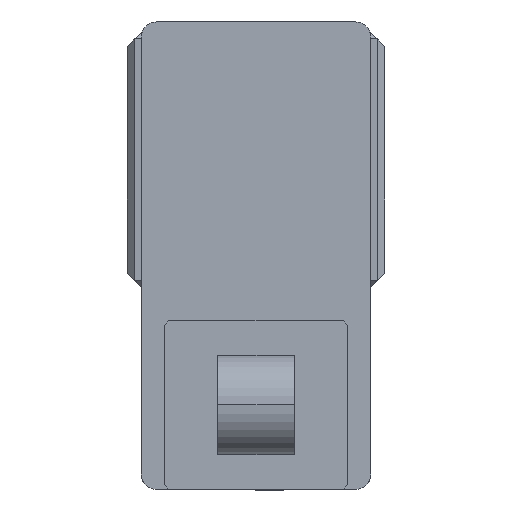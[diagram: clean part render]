
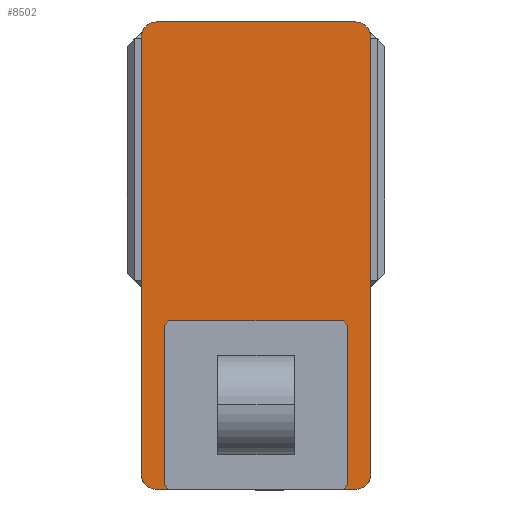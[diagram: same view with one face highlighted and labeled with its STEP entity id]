
A CAD part, left-side view. The second image highlights one B-rep face of the part: STEP entity #8502.
In plain terms, the highlighted planar face has unit normal (-1, 0, 0) as drawn and (0, 0, 1) by its records, which use the part's own axes.
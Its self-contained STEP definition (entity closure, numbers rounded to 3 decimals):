
#11 = VERTEX_POINT ( 'NONE', #13044 ) ;
#139 = DIRECTION ( 'NONE',  ( 1., 0., 0. ) ) ;
#318 = ORIENTED_EDGE ( 'NONE', *, *, #15187, .T. ) ;
#721 = CARTESIAN_POINT ( 'NONE',  ( -75., 152.5, 105. ) ) ;
#1483 = CARTESIAN_POINT ( 'NONE',  ( 75., 142.5, 105. ) ) ;
#2527 = VECTOR ( 'NONE', #17218, 1000. ) ;
#2531 = CARTESIAN_POINT ( 'NONE',  ( -75., 142.5, 105. ) ) ;
#2633 = AXIS2_PLACEMENT_3D ( 'NONE', #4036, #16535, #5829 ) ;
#2819 = VERTEX_POINT ( 'NONE', #10984 ) ;
#3111 = CARTESIAN_POINT ( 'NONE',  ( 65., -142.5, 105. ) ) ;
#3176 = DIRECTION ( 'NONE',  ( -1., 0., 0. ) ) ;
#3801 = FACE_OUTER_BOUND ( 'NONE', #14479, .T. ) ;
#4036 = CARTESIAN_POINT ( 'NONE',  ( 65., 142.5, 105. ) ) ;
#4430 = VECTOR ( 'NONE', #3176, 1000. ) ;
#4447 = ORIENTED_EDGE ( 'NONE', *, *, #13225, .T. ) ;
#4892 = DIRECTION ( 'NONE',  ( 1., 0., 0. ) ) ;
#4972 = ORIENTED_EDGE ( 'NONE', *, *, #20473, .T. ) ;
#5550 = LINE ( 'NONE', #11212, #19292 ) ;
#5684 = EDGE_CURVE ( 'NONE', #10021, #17903, #6973, .T. ) ;
#5808 = EDGE_CURVE ( 'NONE', #11, #16987, #16474, .T. ) ;
#5829 = DIRECTION ( 'NONE',  ( 1., 0., 0. ) ) ;
#5935 = CARTESIAN_POINT ( 'NONE',  ( -65., -152.5, 105. ) ) ;
#6107 = VECTOR ( 'NONE', #11426, 1000. ) ;
#6492 = VERTEX_POINT ( 'NONE', #5935 ) ;
#6839 = DIRECTION ( 'NONE',  ( 0., 0., 1. ) ) ;
#6973 = CIRCLE ( 'NONE', #8215, 10. ) ;
#7147 = EDGE_CURVE ( 'NONE', #16082, #8458, #17821, .T. ) ;
#7337 = CARTESIAN_POINT ( 'NONE',  ( 65., -152.5, 105. ) ) ;
#8215 = AXIS2_PLACEMENT_3D ( 'NONE', #3111, #15606, #4892 ) ;
#8295 = ORIENTED_EDGE ( 'NONE', *, *, #16936, .T. ) ;
#8458 = VERTEX_POINT ( 'NONE', #17836 ) ;
#8502 = ADVANCED_FACE ( 'NONE', ( #3801 ), #16110, .T. ) ;
#8576 = ORIENTED_EDGE ( 'NONE', *, *, #5684, .T. ) ;
#8799 = CARTESIAN_POINT ( 'NONE',  ( -75., 152.5, 105. ) ) ;
#9431 = CARTESIAN_POINT ( 'NONE',  ( -65., -142.5, 105. ) ) ;
#9919 = CIRCLE ( 'NONE', #13221, 10. ) ;
#10021 = VERTEX_POINT ( 'NONE', #7337 ) ;
#10311 = LINE ( 'NONE', #721, #6107 ) ;
#10666 = ORIENTED_EDGE ( 'NONE', *, *, #5808, .T. ) ;
#10873 = DIRECTION ( 'NONE',  ( 0., 0., 1. ) ) ;
#10984 = CARTESIAN_POINT ( 'NONE',  ( -75., -142.5, 105. ) ) ;
#11212 = CARTESIAN_POINT ( 'NONE',  ( -75., -152.5, 105. ) ) ;
#11238 = DIRECTION ( 'NONE',  ( 1., 0., 0. ) ) ;
#11426 = DIRECTION ( 'NONE',  ( 0., -1., 0. ) ) ;
#12610 = ORIENTED_EDGE ( 'NONE', *, *, #7147, .T. ) ;
#12848 = ORIENTED_EDGE ( 'NONE', *, *, #20785, .T. ) ;
#12921 = DIRECTION ( 'NONE',  ( 1., 0., 0. ) ) ;
#13044 = CARTESIAN_POINT ( 'NONE',  ( -65., 152.5, 105. ) ) ;
#13221 = AXIS2_PLACEMENT_3D ( 'NONE', #9431, #21961, #11238 ) ;
#13225 = EDGE_CURVE ( 'NONE', #2819, #6492, #9919, .T. ) ;
#14216 = AXIS2_PLACEMENT_3D ( 'NONE', #17549, #6839, #19378 ) ;
#14479 = EDGE_LOOP ( 'NONE', ( #12848, #8576, #318, #12610, #4972, #10666, #8295, #4447 ) ) ;
#15187 = EDGE_CURVE ( 'NONE', #17903, #16082, #21020, .T. ) ;
#15433 = CARTESIAN_POINT ( 'NONE',  ( 75., 152.5, 105. ) ) ;
#15606 = DIRECTION ( 'NONE',  ( 0., 0., 1. ) ) ;
#16082 = VERTEX_POINT ( 'NONE', #1483 ) ;
#16110 = PLANE ( 'NONE',  #18061 ) ;
#16190 = CARTESIAN_POINT ( 'NONE',  ( 0., 0., 105. ) ) ;
#16474 = CIRCLE ( 'NONE', #14216, 10. ) ;
#16535 = DIRECTION ( 'NONE',  ( 0., 0., 1. ) ) ;
#16936 = EDGE_CURVE ( 'NONE', #16987, #2819, #10311, .T. ) ;
#16987 = VERTEX_POINT ( 'NONE', #2531 ) ;
#17218 = DIRECTION ( 'NONE',  ( 0., 1., 0. ) ) ;
#17549 = CARTESIAN_POINT ( 'NONE',  ( -65., 142.5, 105. ) ) ;
#17821 = CIRCLE ( 'NONE', #2633, 10. ) ;
#17836 = CARTESIAN_POINT ( 'NONE',  ( 65., 152.5, 105. ) ) ;
#17903 = VERTEX_POINT ( 'NONE', #20973 ) ;
#18061 = AXIS2_PLACEMENT_3D ( 'NONE', #16190, #10873, #139 ) ;
#19292 = VECTOR ( 'NONE', #12921, 1000. ) ;
#19378 = DIRECTION ( 'NONE',  ( 1., 0., 0. ) ) ;
#20473 = EDGE_CURVE ( 'NONE', #8458, #11, #22903, .T. ) ;
#20785 = EDGE_CURVE ( 'NONE', #6492, #10021, #5550, .T. ) ;
#20973 = CARTESIAN_POINT ( 'NONE',  ( 75., -142.5, 105. ) ) ;
#21020 = LINE ( 'NONE', #15433, #2527 ) ;
#21961 = DIRECTION ( 'NONE',  ( 0., 0., 1. ) ) ;
#22903 = LINE ( 'NONE', #8799, #4430 ) ;
